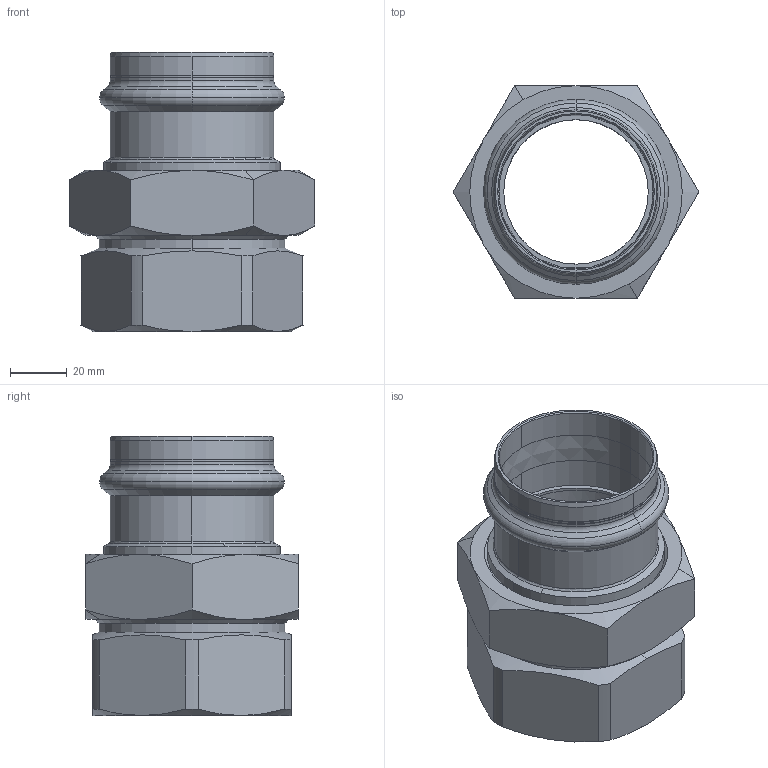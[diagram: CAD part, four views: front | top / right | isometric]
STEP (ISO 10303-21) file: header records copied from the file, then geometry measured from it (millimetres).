
FILE_DESCRIPTION(('CoCreate Modeling STEP Export'),'2;1');
FILE_NAME('8330GVW542.stp','2013-03-05T13:24:56',(''),(''),'CoCreate Modeling STEP processor for AP214 (Solid Model)','CoCreate Modeling 17.00A 17-Jun-2010 (C) Parametric Technology GmbH','');
FILE_SCHEMA(('AUTOMOTIVE_DESIGN { 1 0 10303 214 1 1 1 1 }'));
Length unit declared in the file: millimetre
Products named in the file (4): DRAAD; MOER; Wartelpuntstuk_C-PR_54x2.3.1; 8330GVW522
Assembly tree (3 placements, depth 2):
  8330GVW522
    Wartelpuntstuk_C-PR_54x2.3.1
    MOER
    DRAAD
Bounding box: 86.6 x 75 x 98.5 mm (x, y, z)
Volume: 130015 mm3; surface area: 56247 mm2
Topology: 3 solids, 3 shells, 138 faces, 326 edges, 198 vertices
Faces by surface type: cone 58, cylinder 44, plane 22, torus 14
Entity records: 5113 total; most frequent: CARTESIAN_POINT 2414, ORIENTED_EDGE 652, DIRECTION 378, EDGE_CURVE 326, VERTEX_POINT 198, EDGE_LOOP 148, AXIS2_PLACEMENT_3D 141, FACE_OUTER_BOUND 138
